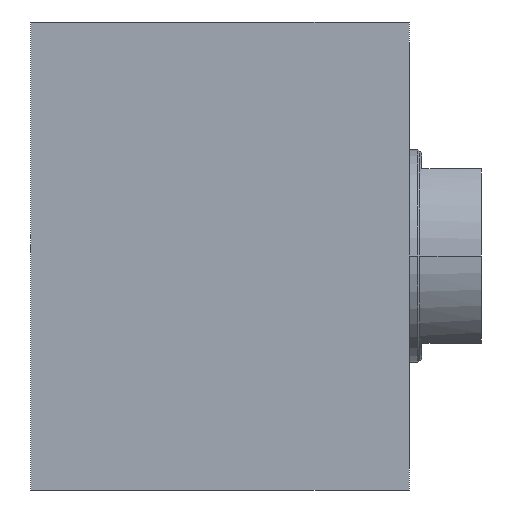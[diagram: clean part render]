
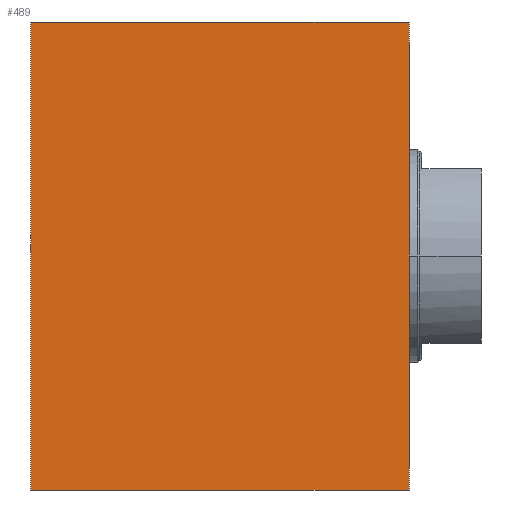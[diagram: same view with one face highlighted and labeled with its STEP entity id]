
A CAD part, front view. The second image highlights one B-rep face of the part: STEP entity #489.
In plain terms, the highlighted planar face has unit normal (0, -1, 0).
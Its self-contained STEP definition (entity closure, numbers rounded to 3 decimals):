
#5=DIRECTION('',(0.,0.,-1.));
#6=VECTOR('',#5,110.);
#7=CARTESIAN_POINT('',(-44.5,-70.,55.));
#8=LINE('',#7,#6);
#59=DIRECTION('',(1.,0.,0.));
#60=VECTOR('',#59,89.);
#61=CARTESIAN_POINT('',(-44.5,-70.,-55.));
#62=LINE('',#61,#60);
#73=DIRECTION('',(1.,0.,0.));
#74=VECTOR('',#73,89.);
#75=CARTESIAN_POINT('',(-44.5,-70.,55.));
#76=LINE('',#75,#74);
#89=DIRECTION('',(0.,0.,-1.));
#90=VECTOR('',#89,110.);
#91=CARTESIAN_POINT('',(44.5,-70.,55.));
#92=LINE('',#91,#90);
#302=CARTESIAN_POINT('',(-44.5,-70.,55.));
#304=VERTEX_POINT('',#302);
#305=CARTESIAN_POINT('',(-44.5,-70.,-55.));
#306=VERTEX_POINT('',#305);
#310=CARTESIAN_POINT('',(44.5,-70.,55.));
#312=VERTEX_POINT('',#310);
#313=CARTESIAN_POINT('',(44.5,-70.,-55.));
#314=VERTEX_POINT('',#313);
#477=CARTESIAN_POINT('',(-44.5,-70.,55.));
#478=DIRECTION('',(0.,-1.,0.));
#479=DIRECTION('',(0.,0.,-1.));
#480=AXIS2_PLACEMENT_3D('',#477,#478,#479);
#481=PLANE('',#480);
#482=ORIENTED_EDGE('',*,*,#388,.F.);
#483=ORIENTED_EDGE('',*,*,#407,.T.);
#485=ORIENTED_EDGE('',*,*,#484,.T.);
#486=ORIENTED_EDGE('',*,*,#458,.F.);
#487=EDGE_LOOP('',(#482,#483,#485,#486));
#488=FACE_OUTER_BOUND('',#487,.F.);
#489=ADVANCED_FACE('',(#488),#481,.T.);
#388=EDGE_CURVE('',#304,#306,#8,.T.);
#407=EDGE_CURVE('',#304,#312,#76,.T.);
#458=EDGE_CURVE('',#306,#314,#62,.T.);
#484=EDGE_CURVE('',#312,#314,#92,.T.);
